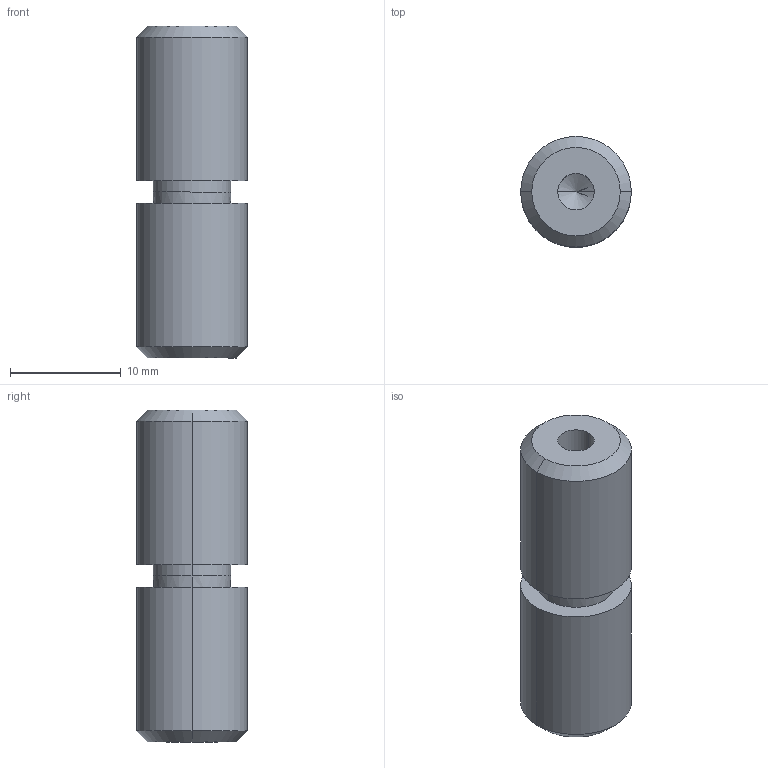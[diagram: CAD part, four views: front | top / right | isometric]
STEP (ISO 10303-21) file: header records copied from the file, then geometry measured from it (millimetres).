
FILE_DESCRIPTION (( 'STEP AP214' ), '1' );
FILE_NAME ('TPNV10-1.STEP', '2024-05-29T23:37:50', ( '' ), ( '' ), 'SwSTEP 2.0', 'SolidWorks 2017', '' );
FILE_SCHEMA (( 'AUTOMOTIVE_DESIGN' ));
Length unit declared in the file: millimetre
Products named in the file (3): TPNV10-1; TPNVB10-1; TPNVP10-1
Assembly tree (2 placements, depth 2):
  TPNV10-1
    TPNVP10-1
    TPNVB10-1
Bounding box: 10 x 10 x 30 mm (x, y, z)
Volume: 1953.3 mm3; surface area: 1605.9 mm2
Topology: 2 solids, 2 shells, 32 faces, 64 edges, 37 vertices
Faces by surface type: cylinder 12, cone 12, plane 6, torus 2
Entity records: 978 total; most frequent: DIRECTION 174, CARTESIAN_POINT 136, ORIENTED_EDGE 124, AXIS2_PLACEMENT_3D 75, EDGE_CURVE 62, CIRCLE 38, EDGE_LOOP 37, VERTEX_POINT 37
